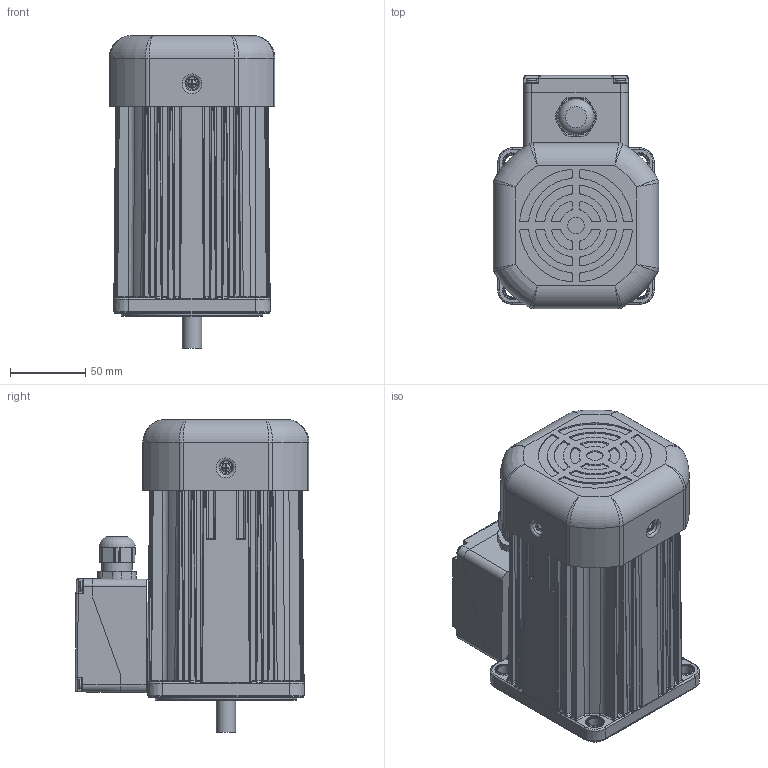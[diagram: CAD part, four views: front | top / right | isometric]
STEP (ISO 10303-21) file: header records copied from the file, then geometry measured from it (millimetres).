
FILE_DESCRIPTION (( 'STEP AP214' ), '1' );
FILE_NAME ('10IDG¤±-300FU-T.STEP', '2025-01-13T02:42:25', ( '' ), ( '' ), 'SwSTEP 2.0', 'SolidWorks 2024', '' );
FILE_SCHEMA (( 'AUTOMOTIVE_DESIGN' ));
Length unit declared in the file: millimetre
Products named in the file (3): 10IDGE-250FU; TB8090; 10IDGㅁ-300FU-T
Assembly tree (2 placements, depth 2):
  10IDGㅁ-300FU-T
    10IDGE-250FU
    TB8090
Bounding box: 110 x 154.94 x 207.5 mm (x, y, z)
Volume: 1957975.5 mm3; surface area: 145437.6 mm2
Topology: 4 solids, 4 shells, 904 faces, 2308 edges, 1423 vertices
Faces by surface type: plane 387, cylinder 261, bspline 158, cone 79, torus 13, sphere 6
Full cylindrical faces by diameter (mm): 5.8 x4, 6.7 x4, 8 x4, 11 x1, 12.8 x1, 18 x1, 20 x1, 43 x1, 94 x1
Entity records: 48662 total; most frequent: CARTESIAN_POINT 28574, ORIENTED_EDGE 4382, DIRECTION 3721, EDGE_CURVE 2191, VERTEX_POINT 1404, AXIS2_PLACEMENT_3D 1303, LINE 1115, VECTOR 1115
